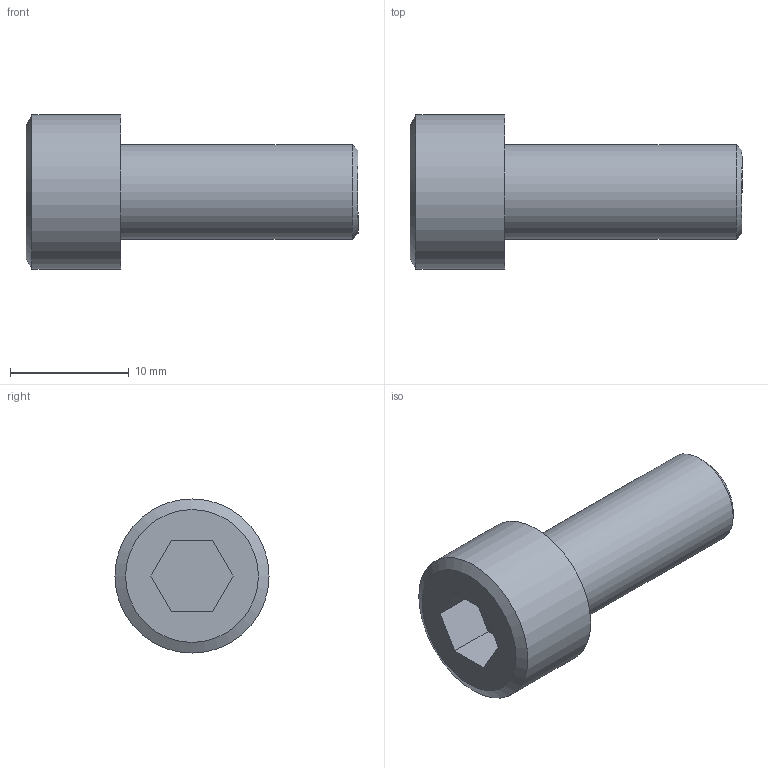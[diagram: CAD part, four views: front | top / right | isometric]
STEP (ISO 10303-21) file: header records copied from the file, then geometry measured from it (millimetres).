
FILE_DESCRIPTION( ( 'STEP AP203' ), '1' );
FILE_NAME( 'C:/CS-08.stp', '2013-10-20T23:45:01', ( ' ' ), ( ' ' ), 'XStep 1.0', ' ', ' ' );
FILE_SCHEMA( ( 'CONFIG_CONTROL_DESIGN' ) );
Length unit declared in the file: metre
Products named in the file (1): 1
Bounding box: 28 x 13 x 13 mm (x, y, z)
Volume: 1949.5 mm3; surface area: 1157.1 mm2
Topology: 1 solids, 1 shells, 14 faces, 28 edges, 18 vertices
Faces by surface type: bspline 14
Entity records: 450 total; most frequent: CARTESIAN_POINT 175, ORIENTED_EDGE 48, DIRECTION 28, EDGE_CURVE 24, EDGE_LOOP 20, FACE_OUTER_BOUND 18, VERTEX_POINT 18, ADVANCED_FACE 14
